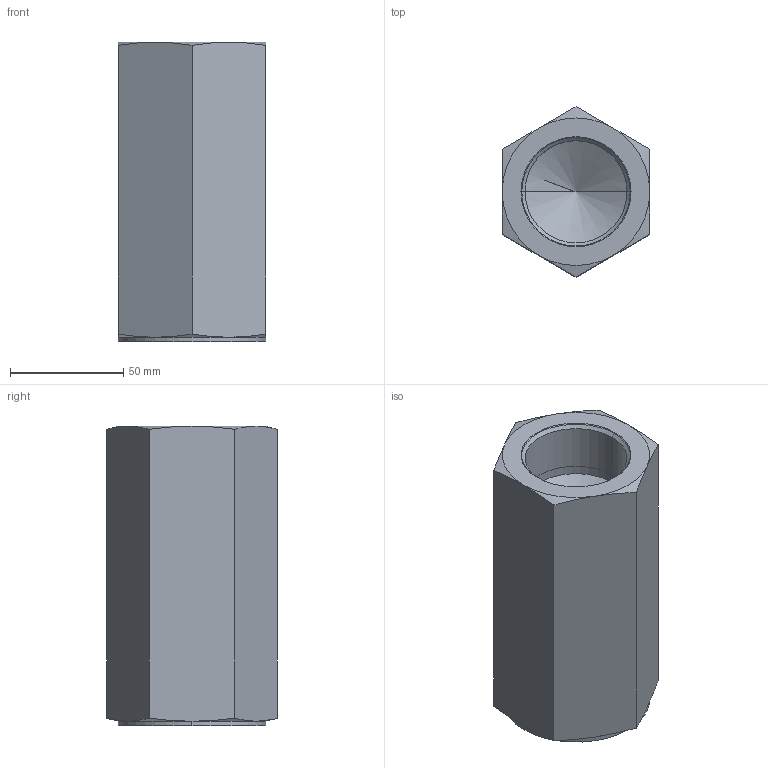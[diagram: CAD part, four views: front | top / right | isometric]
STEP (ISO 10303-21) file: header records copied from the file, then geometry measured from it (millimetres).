
FILE_DESCRIPTION((''),'2;1');
FILE_NAME('VJ3_30_G1','2021-06-02T',('l.soukupova'),(''),'PRO/ENGINEER BY PARAMETRIC TECHNOLOGY CORPORATION, 2015440','PRO/ENGINEER BY PARAMETRIC TECHNOLOGY CORPORATION, 2015440','');
FILE_SCHEMA(('AUTOMOTIVE_DESIGN { 1 0 10303 214 1 1 1 1 }'));
Length unit declared in the file: millimetre
Products named in the file (1): VJ3_30_G1
Bounding box: 65 x 75.06 x 132 mm (x, y, z)
Volume: 385104.2 mm3; surface area: 51287.2 mm2
Topology: 1 solids, 3 shells, 40 faces, 114 edges, 87 vertices
Faces by surface type: cone 20, plane 10, cylinder 10
Entity records: 2058 total; most frequent: CARTESIAN_POINT 613, DIRECTION 212, ORIENTED_EDGE 164, PRESENTATION_STYLE_ASSIGNMENT 122, STYLED_ITEM 122, CURVE_STYLE 119, EDGE_CURVE 86, AXIS2_PLACEMENT_3D 83
